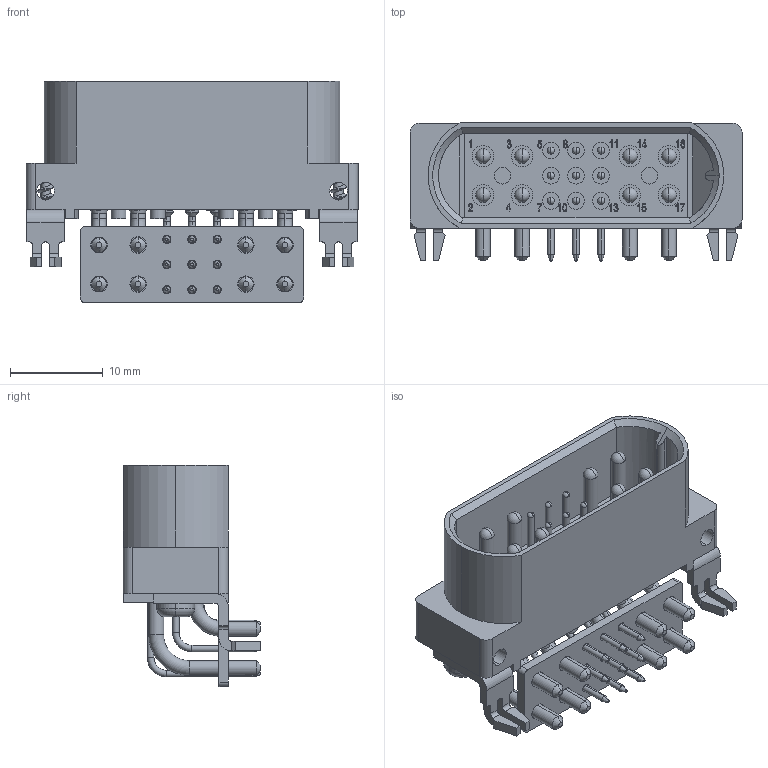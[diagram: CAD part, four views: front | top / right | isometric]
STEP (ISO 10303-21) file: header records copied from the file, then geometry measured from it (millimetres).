
FILE_DESCRIPTION (( 'STEP AP203' ), '1' );
FILE_NAME ('GFSH89M4LN.STEP', '2025-01-07T06:21:47', ( '' ), ( '' ), 'SwSTEP 2.0', 'SolidWorks 2021', '' );
FILE_SCHEMA (( 'CONFIG_CONTROL_DESIGN' ));
Length unit declared in the file: millimetre
Products named in the file (1): GFSH89M4LN
Bounding box: 35.7 x 14.8 x 23.8 mm (x, y, z)
Volume: 3228.2 mm3; surface area: 4910.9 mm2
Topology: 1 solids, 1 shells, 1392 faces, 3670 edges, 2376 vertices
Faces by surface type: plane 567, cylinder 371, bspline 249, cone 133, torus 38, sphere 34
Entity records: 58041 total; most frequent: CARTESIAN_POINT 25275, ORIENTED_EDGE 7272, DIRECTION 6025, EDGE_CURVE 3636, VERTEX_POINT 2376, AXIS2_PLACEMENT_3D 2094, VECTOR 1837, LINE 1837
